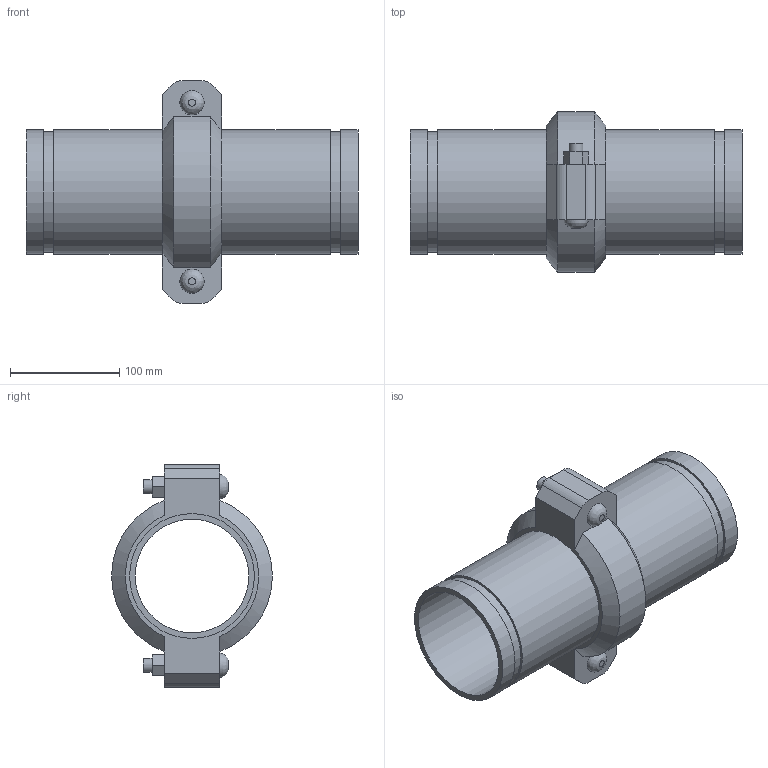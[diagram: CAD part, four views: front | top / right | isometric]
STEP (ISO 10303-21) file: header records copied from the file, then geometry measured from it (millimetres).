
FILE_DESCRIPTION(/* description */ ('VIC SS EXPANSION JOINT 1 COUPLING COMPRESSED STYLE 155P (OGS) (POTABLE WATER) ','CAx-IF Rec.Pracs.---Representation and Presentation of Product Manufacturing Information (PMI)---4.0---2014-10-13'),/* implementation_level */ '2;1');
FILE_NAME(/* name */ 'C:\Users\kkamble\AppData\Roaming\Autodesk\ApplicationPlugins\Victaulic.Temp\A829\Victaulic_SS_Expansion Joint_Compressed_1 Coupling_Style 155P (OGS)-Potable Water_1 Coup_Comp_4 (100).stp',/* time_stamp */ '2021-07-16T17:04:05+06:00',/* author */ ('kkamble'),/* organization */ ('Victaulic'),/* preprocessor_version */ 'ST-DEVELOPER v17.2',/* originating_system */ 'Autodesk Inventor 2019',/* authorisation */ '');
FILE_SCHEMA (('AP242_MANAGED_MODEL_BASED_3D_ENGINEERING_MIM_LF { 1 0 10303 442 1 1 4 }'));
Length unit declared in the file: inch
Products named in the file (3): 155P-04.0; Nipple-04.0; 075-04.0
Assembly tree (3 placements, depth 2):
  155P-04.0
    Nipple-04.0  x2
    075-04.0
Bounding box: 304.04 x 147.32 x 203.96 mm (x, y, z)
Volume: 988938.8 mm3; surface area: 296835.5 mm2
Topology: 3 solids, 5 shells, 77 faces, 187 edges, 134 vertices
Faces by surface type: plane 46, cylinder 25, cone 4, bspline 2
Full cylindrical faces by diameter (mm): 12.7 x4, 14.605 x2, 103.988 x2, 110.084 x4, 114.3 x7
Entity records: 2189 total; most frequent: CARTESIAN_POINT 406, DIRECTION 351, ORIENTED_EDGE 314, EDGE_CURVE 157, AXIS2_PLACEMENT_3D 133, VERTEX_POINT 110, LINE 85, VECTOR 85
